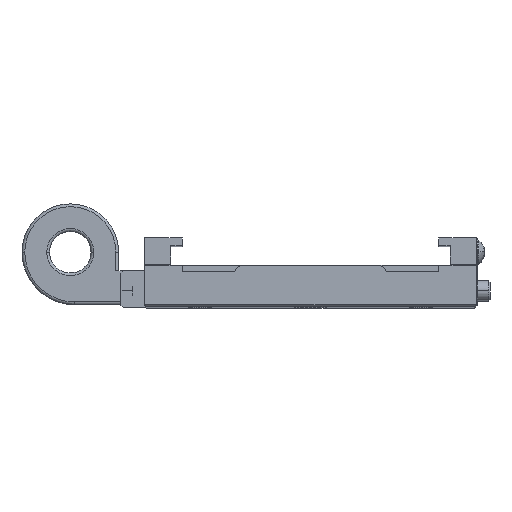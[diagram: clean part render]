
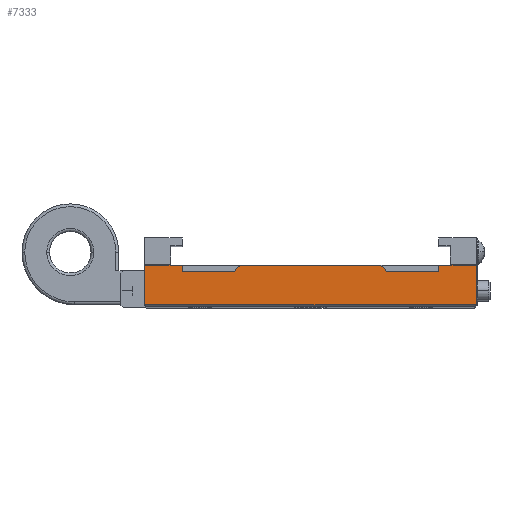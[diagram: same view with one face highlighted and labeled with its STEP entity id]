
A CAD part, top view. The second image highlights one B-rep face of the part: STEP entity #7333.
In plain terms, the highlighted planar face has unit normal (0, 0, 1).
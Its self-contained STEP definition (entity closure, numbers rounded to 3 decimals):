
#10 = CARTESIAN_POINT ( 'NONE',  ( -38.1, 0.508, 152.4 ) ) ;
#201 = DIRECTION ( 'NONE',  ( 1., 0., 0. ) ) ;
#223 = CARTESIAN_POINT ( 'NONE',  ( 17.501, 8.204, 152.4 ) ) ;
#249 = CARTESIAN_POINT ( 'NONE',  ( -29.489, 8.204, 152.4 ) ) ;
#376 = LINE ( 'NONE', #4676, #5259 ) ;
#426 = VERTEX_POINT ( 'NONE', #10 ) ;
#482 = CARTESIAN_POINT ( 'NONE',  ( 38.1, 15.875, 152.4 ) ) ;
#502 = DIRECTION ( 'NONE',  ( 1., 0., 0. ) ) ;
#854 = CARTESIAN_POINT ( 'NONE',  ( 17.501, 8.204, 152.4 ) ) ;
#876 = VECTOR ( 'NONE', #3701, 1000. ) ;
#1102 = DIRECTION ( 'NONE',  ( -0.707, 0.707, 0. ) ) ;
#1235 = EDGE_CURVE ( 'NONE', #5219, #8175, #376, .T. ) ;
#1318 = ORIENTED_EDGE ( 'NONE', *, *, #4695, .F. ) ;
#1486 = VECTOR ( 'NONE', #3652, 1000. ) ;
#1497 = ORIENTED_EDGE ( 'NONE', *, *, #6456, .F. ) ;
#1543 = CARTESIAN_POINT ( 'NONE',  ( 16.126, 9.579, 152.4 ) ) ;
#1583 = VECTOR ( 'NONE', #3372, 1000. ) ;
#1643 = VERTEX_POINT ( 'NONE', #1949 ) ;
#1894 = ORIENTED_EDGE ( 'NONE', *, *, #7714, .F. ) ;
#1949 = CARTESIAN_POINT ( 'NONE',  ( 29.489, 9.579, 152.4 ) ) ;
#2063 = VERTEX_POINT ( 'NONE', #249 ) ;
#2070 = VERTEX_POINT ( 'NONE', #6763 ) ;
#2114 = VECTOR ( 'NONE', #7465, 1000. ) ;
#2154 = DIRECTION ( 'NONE',  ( -0.707, -0.707, 0. ) ) ;
#2225 = LINE ( 'NONE', #482, #876 ) ;
#2399 = EDGE_CURVE ( 'NONE', #7435, #1643, #7381, .T. ) ;
#2407 = ORIENTED_EDGE ( 'NONE', *, *, #7365, .F. ) ;
#2410 = VECTOR ( 'NONE', #502, 1000. ) ;
#2447 = CARTESIAN_POINT ( 'NONE',  ( 17.501, 8.204, 152.4 ) ) ;
#2509 = DIRECTION ( 'NONE',  ( 1., 0., 0. ) ) ;
#2622 = LINE ( 'NONE', #2659, #1583 ) ;
#2659 = CARTESIAN_POINT ( 'NONE',  ( -29.489, 9.779, 152.4 ) ) ;
#2719 = VECTOR ( 'NONE', #1102, 1000. ) ;
#2932 = CARTESIAN_POINT ( 'NONE',  ( -38.1, 8.255, 152.4 ) ) ;
#3021 = LINE ( 'NONE', #223, #4034 ) ;
#3082 = CARTESIAN_POINT ( 'NONE',  ( -38.1, 9.579, 152.4 ) ) ;
#3295 = VECTOR ( 'NONE', #6489, 1000. ) ;
#3372 = DIRECTION ( 'NONE',  ( 0., -1., 0. ) ) ;
#3444 = LINE ( 'NONE', #6799, #2114 ) ;
#3652 = DIRECTION ( 'NONE',  ( 1., 0., 0. ) ) ;
#3701 = DIRECTION ( 'NONE',  ( 0., -1., 0. ) ) ;
#3725 = ORIENTED_EDGE ( 'NONE', *, *, #4114, .F. ) ;
#3887 = VECTOR ( 'NONE', #5247, 1000. ) ;
#3920 = ORIENTED_EDGE ( 'NONE', *, *, #2399, .F. ) ;
#3955 = CARTESIAN_POINT ( 'NONE',  ( 29.489, 8.204, 152.4 ) ) ;
#4021 = LINE ( 'NONE', #7761, #7214 ) ;
#4034 = VECTOR ( 'NONE', #201, 1000. ) ;
#4114 = EDGE_CURVE ( 'NONE', #426, #5219, #5026, .T. ) ;
#4279 = ORIENTED_EDGE ( 'NONE', *, *, #5010, .F. ) ;
#4470 = DIRECTION ( 'NONE',  ( -1., 0., 0. ) ) ;
#4515 = CARTESIAN_POINT ( 'NONE',  ( -38.1, 0.508, 152.4 ) ) ;
#4555 = CARTESIAN_POINT ( 'NONE',  ( -29.489, 8.204, 152.4 ) ) ;
#4662 = ORIENTED_EDGE ( 'NONE', *, *, #1235, .F. ) ;
#4673 = VERTEX_POINT ( 'NONE', #6415 ) ;
#4676 = CARTESIAN_POINT ( 'NONE',  ( -38.1, 9.579, 152.4 ) ) ;
#4695 = EDGE_CURVE ( 'NONE', #4673, #6714, #2225, .T. ) ;
#4743 = ORIENTED_EDGE ( 'NONE', *, *, #5796, .F. ) ;
#4774 = VECTOR ( 'NONE', #2154, 1000. ) ;
#4909 = ORIENTED_EDGE ( 'NONE', *, *, #7898, .T. ) ;
#5010 = EDGE_CURVE ( 'NONE', #6160, #7739, #3444, .T. ) ;
#5026 = LINE ( 'NONE', #4515, #3295 ) ;
#5219 = VERTEX_POINT ( 'NONE', #7665 ) ;
#5247 = DIRECTION ( 'NONE',  ( 0., 1., 0. ) ) ;
#5253 = FACE_OUTER_BOUND ( 'NONE', #5273, .T. ) ;
#5259 = VECTOR ( 'NONE', #5332, 1000. ) ;
#5273 = EDGE_LOOP ( 'NONE', ( #4662, #3725, #2407, #1318, #4743, #3920, #1894, #4909, #4279, #6438, #7996, #1497 ) ) ;
#5332 = DIRECTION ( 'NONE',  ( 1., 0., 0. ) ) ;
#5374 = CARTESIAN_POINT ( 'NONE',  ( -29.489, 9.579, 152.4 ) ) ;
#5512 = CARTESIAN_POINT ( 'NONE',  ( -15.926, 9.779, 152.4 ) ) ;
#5777 = PLANE ( 'NONE',  #6688 ) ;
#5796 = EDGE_CURVE ( 'NONE', #1643, #4673, #6622, .T. ) ;
#6051 = VERTEX_POINT ( 'NONE', #854 ) ;
#6160 = VERTEX_POINT ( 'NONE', #6273 ) ;
#6273 = CARTESIAN_POINT ( 'NONE',  ( -16.126, 9.579, 152.4 ) ) ;
#6315 = EDGE_CURVE ( 'NONE', #2063, #2070, #7750, .T. ) ;
#6415 = CARTESIAN_POINT ( 'NONE',  ( 38.1, 9.579, 152.4 ) ) ;
#6418 = LINE ( 'NONE', #2447, #2719 ) ;
#6438 = ORIENTED_EDGE ( 'NONE', *, *, #7212, .T. ) ;
#6444 = DIRECTION ( 'NONE',  ( 0., 0., 1. ) ) ;
#6456 = EDGE_CURVE ( 'NONE', #8175, #2063, #2622, .T. ) ;
#6489 = DIRECTION ( 'NONE',  ( 0., 1., 0. ) ) ;
#6622 = LINE ( 'NONE', #3082, #1486 ) ;
#6688 = AXIS2_PLACEMENT_3D ( 'NONE', #2932, #6444, #2509 ) ;
#6714 = VERTEX_POINT ( 'NONE', #8167 ) ;
#6763 = CARTESIAN_POINT ( 'NONE',  ( -17.501, 8.204, 152.4 ) ) ;
#6799 = CARTESIAN_POINT ( 'NONE',  ( -38.1, 9.579, 152.4 ) ) ;
#7212 = EDGE_CURVE ( 'NONE', #6160, #2070, #7567, .T. ) ;
#7214 = VECTOR ( 'NONE', #4470, 1000. ) ;
#7333 = ADVANCED_FACE ( 'NONE', ( #5253 ), #5777, .T. ) ;
#7365 = EDGE_CURVE ( 'NONE', #6714, #426, #4021, .T. ) ;
#7381 = LINE ( 'NONE', #7882, #3887 ) ;
#7435 = VERTEX_POINT ( 'NONE', #3955 ) ;
#7465 = DIRECTION ( 'NONE',  ( 1., 0., 0. ) ) ;
#7567 = LINE ( 'NONE', #5512, #4774 ) ;
#7665 = CARTESIAN_POINT ( 'NONE',  ( -38.1, 9.579, 152.4 ) ) ;
#7714 = EDGE_CURVE ( 'NONE', #6051, #7435, #3021, .T. ) ;
#7739 = VERTEX_POINT ( 'NONE', #1543 ) ;
#7750 = LINE ( 'NONE', #4555, #2410 ) ;
#7761 = CARTESIAN_POINT ( 'NONE',  ( 38.1, 0.508, 152.4 ) ) ;
#7882 = CARTESIAN_POINT ( 'NONE',  ( 29.489, 8.204, 152.4 ) ) ;
#7898 = EDGE_CURVE ( 'NONE', #6051, #7739, #6418, .T. ) ;
#7996 = ORIENTED_EDGE ( 'NONE', *, *, #6315, .F. ) ;
#8167 = CARTESIAN_POINT ( 'NONE',  ( 38.1, 0.508, 152.4 ) ) ;
#8175 = VERTEX_POINT ( 'NONE', #5374 ) ;
